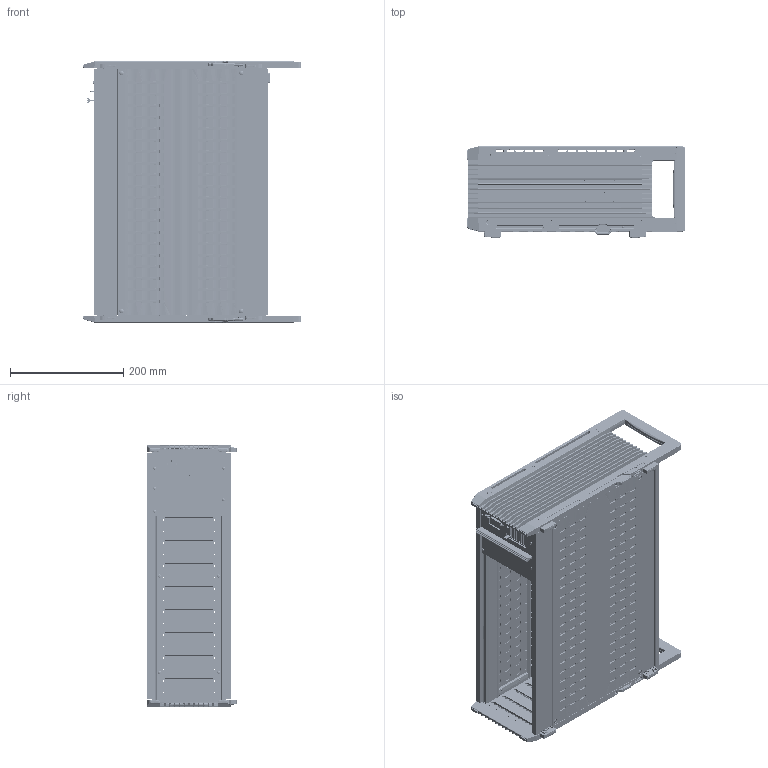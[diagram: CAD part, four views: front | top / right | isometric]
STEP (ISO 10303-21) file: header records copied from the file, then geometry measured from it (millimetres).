
FILE_DESCRIPTION((''),'2;1');
FILE_NAME('1_TG003_E_STEP_1_ASM','2018-10-24T',('jeblick'),(''),'CREO PARAMETRIC BY PTC INC, 2017170','CREO PARAMETRIC BY PTC INC, 2017170','');
FILE_SCHEMA(('CONFIG_CONTROL_DESIGN'));
Products named in the file (4): 1_TG003_E_STEP_SW0001; 3_9241_0324_STEP_SW0001; 1_BL05_STEP_SW0001; 1_TG003_E_STEP_1_ASM
Assembly tree (3 placements, depth 2):
  1_TG003_E_STEP_1_ASM
    1_TG003_E_STEP_SW0001
    3_9241_0324_STEP_SW0001
    1_BL05_STEP_SW0001
Bounding box: 385.76 x 160.5 x 461.1 mm (x, y, z)
Volume: 4837702 mm3; surface area: 2143988.5 mm2
Topology: 3 solids, 4 shells, 11173 faces, 32094 edges, 20775 vertices
Faces by surface type: bspline 11173
Entity records: 557802 total; most frequent: CARTESIAN_POINT 217163, ORIENTED_EDGE 64084, DIRECTION 39111, EDGE_CURVE 32042, VECTOR 21821, LINE 21821, VERTEX_POINT 20775, EDGE_LOOP 13033
